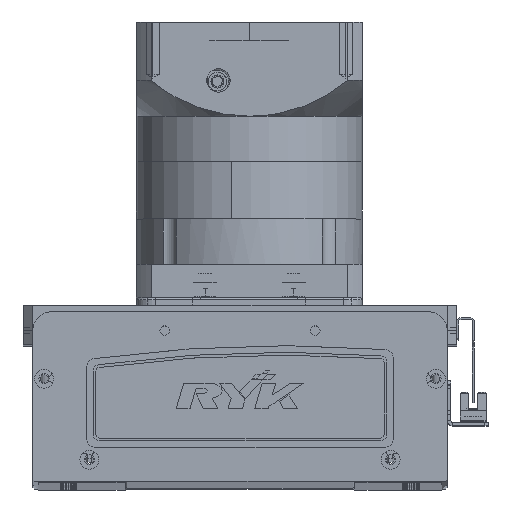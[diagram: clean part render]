
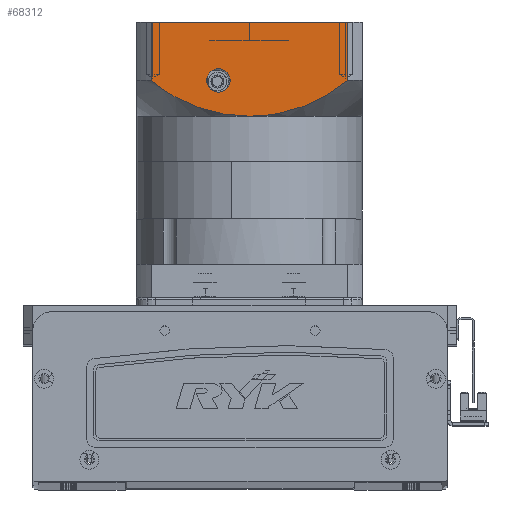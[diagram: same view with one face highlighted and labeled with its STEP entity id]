
A CAD part, top view. The second image highlights one B-rep face of the part: STEP entity #68312.
In plain terms, the highlighted planar face has unit normal (0, 0, 1) as drawn and (0, -1, 0) by its records, which use the part's own axes.
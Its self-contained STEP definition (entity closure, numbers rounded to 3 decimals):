
#241 = VERTEX_POINT ( 'NONE', #47335 ) ;
#863 = CARTESIAN_POINT ( 'NONE',  ( 16.5, -60., -113.25 ) ) ;
#928 = ORIENTED_EDGE ( 'NONE', *, *, #50504, .F. ) ;
#1293 = DIRECTION ( 'NONE',  ( 1., 0., 0. ) ) ;
#1890 = ORIENTED_EDGE ( 'NONE', *, *, #66228, .F. ) ;
#2260 = ORIENTED_EDGE ( 'NONE', *, *, #35229, .T. ) ;
#2439 = CARTESIAN_POINT ( 'NONE',  ( -12.993, -60., -101.537 ) ) ;
#3533 = CARTESIAN_POINT ( 'NONE',  ( -39.546, -60., -110.776 ) ) ;
#6641 = B_SPLINE_CURVE_WITH_KNOTS ( 'NONE', 3,
 ( #36294, #40946, #25833, #3533, #30253, #40708, #8859, #67386, #9085, #32416, #47710, #2439, #12620, #62537, #33195, #17392, #36661, #26625 ),
 .UNSPECIFIED., .F., .F.,
 ( 4, 2, 2, 2, 2, 2, 2, 2, 4 ),
 ( 0., 0.014, 0.018, 0.021, 0.028, 0.042, 0.046, 0.05, 0.057 ),
 .UNSPECIFIED. ) ;
#7819 = VECTOR ( 'NONE', #1293, 1000. ) ;
#8170 = CARTESIAN_POINT ( 'NONE',  ( 0., -60., -100.5 ) ) ;
#8655 = CARTESIAN_POINT ( 'NONE',  ( 32.196, -60., -107.007 ) ) ;
#8859 = CARTESIAN_POINT ( 'NONE',  ( -35.342, -60., -108.587 ) ) ;
#9085 = CARTESIAN_POINT ( 'NONE',  ( -29.939, -60., -106.183 ) ) ;
#9696 = LINE ( 'NONE', #53575, #16356 ) ;
#10309 = LINE ( 'NONE', #51926, #31167 ) ;
#10455 = CIRCLE ( 'NONE', #60098, 6.25 ) ;
#11983 = CARTESIAN_POINT ( 'NONE',  ( 52.156, -60., -119.5 ) ) ;
#12001 = EDGE_LOOP ( 'NONE', ( #13857, #2260 ) ) ;
#12620 = CARTESIAN_POINT ( 'NONE',  ( -11.825, -60., -101.356 ) ) ;
#12843 = DIRECTION ( 'NONE',  ( 0., 1., 0. ) ) ;
#13857 = ORIENTED_EDGE ( 'NONE', *, *, #62027, .T. ) ;
#15485 = DIRECTION ( 'NONE',  ( 0., 0., 1. ) ) ;
#16356 = VECTOR ( 'NONE', #21831, 1000. ) ;
#17392 = CARTESIAN_POINT ( 'NONE',  ( -4.747, -60., -100.604 ) ) ;
#17974 = CARTESIAN_POINT ( 'NONE',  ( -60., -60., -150.5 ) ) ;
#19603 = CARTESIAN_POINT ( 'NONE',  ( 9.454, -60., -100.914 ) ) ;
#19865 = CARTESIAN_POINT ( 'NONE',  ( -52.156, -60., -119.5 ) ) ;
#19954 = VERTEX_POINT ( 'NONE', #40123 ) ;
#21831 = DIRECTION ( 'NONE',  ( 0., 0., 1. ) ) ;
#22303 = VERTEX_POINT ( 'NONE', #863 ) ;
#24489 = CARTESIAN_POINT ( 'NONE',  ( 48.457, -60., -116.522 ) ) ;
#25833 = CARTESIAN_POINT ( 'NONE',  ( -44.656, -60., -113.73 ) ) ;
#26625 = CARTESIAN_POINT ( 'NONE',  ( 0., -60., -100.5 ) ) ;
#27632 = CARTESIAN_POINT ( 'NONE',  ( 0., -60., -100.5 ) ) ;
#27686 = EDGE_CURVE ( 'NONE', #241, #51498, #9696, .T. ) ;
#27716 = VERTEX_POINT ( 'NONE', #27632 ) ;
#28013 = ORIENTED_EDGE ( 'NONE', *, *, #36753, .F. ) ;
#28216 = CIRCLE ( 'NONE', #61409, 6.25 ) ;
#29361 = CARTESIAN_POINT ( 'NONE',  ( 15.267, -60., -101.938 ) ) ;
#29585 = FACE_BOUND ( 'NONE', #12001, .T. ) ;
#29586 = CARTESIAN_POINT ( 'NONE',  ( 41.545, -60., -111.931 ) ) ;
#29714 = AXIS2_PLACEMENT_3D ( 'NONE', #47091, #37148, #57736 ) ;
#29967 = VERTEX_POINT ( 'NONE', #55894 ) ;
#30253 = CARTESIAN_POINT ( 'NONE',  ( -38.51, -60., -110.207 ) ) ;
#31167 = VECTOR ( 'NONE', #15485, 1000. ) ;
#32416 = CARTESIAN_POINT ( 'NONE',  ( -23.319, -60., -103.777 ) ) ;
#32683 = DIRECTION ( 'NONE',  ( 0., 1., 0. ) ) ;
#33195 = CARTESIAN_POINT ( 'NONE',  ( -8.294, -60., -100.916 ) ) ;
#33409 = EDGE_LOOP ( 'NONE', ( #1890, #36306, #50587, #928, #28013 ) ) ;
#34446 = CARTESIAN_POINT ( 'NONE',  ( 4.753, -60., -100.5 ) ) ;
#34487 = CARTESIAN_POINT ( 'NONE',  ( 16.5, -60., -119.5 ) ) ;
#34678 = CARTESIAN_POINT ( 'NONE',  ( 42.555, -60., -112.543 ) ) ;
#34925 = CARTESIAN_POINT ( 'NONE',  ( 25.577, -60., -104.596 ) ) ;
#35229 = EDGE_CURVE ( 'NONE', #22303, #19954, #10455, .T. ) ;
#36160 = LINE ( 'NONE', #17974, #7819 ) ;
#36294 = CARTESIAN_POINT ( 'NONE',  ( -52.156, -60., -119.5 ) ) ;
#36306 = ORIENTED_EDGE ( 'NONE', *, *, #49381, .T. ) ;
#36661 = CARTESIAN_POINT ( 'NONE',  ( -2.376, -60., -100.5 ) ) ;
#36753 = EDGE_CURVE ( 'NONE', #59913, #27716, #6641, .T. ) ;
#37148 = DIRECTION ( 'NONE',  ( 0., -1., 0. ) ) ;
#40123 = CARTESIAN_POINT ( 'NONE',  ( 16.5, -60., -125.75 ) ) ;
#40291 = CARTESIAN_POINT ( 'NONE',  ( 45.542, -60., -114.478 ) ) ;
#40708 = CARTESIAN_POINT ( 'NONE',  ( -36.409, -60., -109.113 ) ) ;
#40730 = CARTESIAN_POINT ( 'NONE',  ( 18.739, -60., -102.681 ) ) ;
#40946 = CARTESIAN_POINT ( 'NONE',  ( -48.52, -60., -116.438 ) ) ;
#45326 = FACE_OUTER_BOUND ( 'NONE', #33409, .T. ) ;
#45327 = CARTESIAN_POINT ( 'NONE',  ( 52.156, -60., -119.5 ) ) ;
#47091 = CARTESIAN_POINT ( 'NONE',  ( -60., -60., -150.5 ) ) ;
#47335 = CARTESIAN_POINT ( 'NONE',  ( 52.156, -60., -150.5 ) ) ;
#47710 = CARTESIAN_POINT ( 'NONE',  ( -18.792, -60., -102.562 ) ) ;
#48632 = DIRECTION ( 'NONE',  ( 0., 0., -1. ) ) ;
#49381 = EDGE_CURVE ( 'NONE', #29967, #241, #36160, .T. ) ;
#50411 = CARTESIAN_POINT ( 'NONE',  ( 36.444, -60., -108.986 ) ) ;
#50504 = EDGE_CURVE ( 'NONE', #27716, #51498, #55223, .T. ) ;
#50587 = ORIENTED_EDGE ( 'NONE', *, *, #27686, .T. ) ;
#50691 = DIRECTION ( 'NONE',  ( 0., 0., -1. ) ) ;
#51498 = VERTEX_POINT ( 'NONE', #11983 ) ;
#51926 = CARTESIAN_POINT ( 'NONE',  ( -52.156, -60., -97.5 ) ) ;
#53575 = CARTESIAN_POINT ( 'NONE',  ( 52.156, -60., -150.5 ) ) ;
#55223 = B_SPLINE_CURVE_WITH_KNOTS ( 'NONE', 3,
 ( #8170, #34446, #19603, #29361, #66959, #40730, #67188, #55758, #34925, #8655, #50411, #29586, #34678, #60872, #40291, #24489, #56212, #45327 ),
 .UNSPECIFIED., .F., .F.,
 ( 4, 2, 2, 2, 2, 2, 2, 2, 4 ),
 ( 0., 0.014, 0.018, 0.021, 0.028, 0.042, 0.046, 0.05, 0.057 ),
 .UNSPECIFIED. ) ;
#55758 = CARTESIAN_POINT ( 'NONE',  ( 23.329, -60., -103.886 ) ) ;
#55894 = CARTESIAN_POINT ( 'NONE',  ( -52.156, -60., -150.5 ) ) ;
#56212 = CARTESIAN_POINT ( 'NONE',  ( 50.338, -60., -117.969 ) ) ;
#57736 = DIRECTION ( 'NONE',  ( 1., 0., 0. ) ) ;
#59913 = VERTEX_POINT ( 'NONE', #19865 ) ;
#60098 = AXIS2_PLACEMENT_3D ( 'NONE', #34487, #12843, #50691 ) ;
#60872 = CARTESIAN_POINT ( 'NONE',  ( 44.553, -60., -113.817 ) ) ;
#61409 = AXIS2_PLACEMENT_3D ( 'NONE', #64706, #32683, #48632 ) ;
#62027 = EDGE_CURVE ( 'NONE', #19954, #22303, #28216, .T. ) ;
#62537 = CARTESIAN_POINT ( 'NONE',  ( -9.477, -60., -101.046 ) ) ;
#62877 = PLANE ( 'NONE',  #29714 ) ;
#64706 = CARTESIAN_POINT ( 'NONE',  ( 16.5, -60., -119.5 ) ) ;
#66228 = EDGE_CURVE ( 'NONE', #29967, #59913, #10309, .T. ) ;
#66959 = CARTESIAN_POINT ( 'NONE',  ( 16.426, -60., -102.169 ) ) ;
#67188 = CARTESIAN_POINT ( 'NONE',  ( 19.894, -60., -102.964 ) ) ;
#67386 = CARTESIAN_POINT ( 'NONE',  ( -32.118, -60., -107.084 ) ) ;
#68312 = ADVANCED_FACE ( 'NONE', ( #45326, #29585 ), #62877, .T. ) ;
